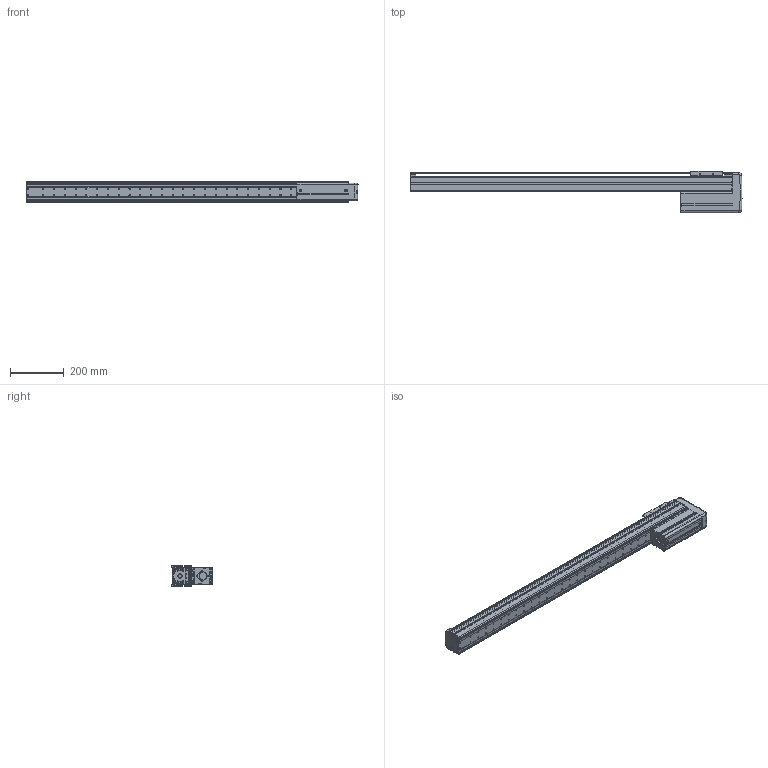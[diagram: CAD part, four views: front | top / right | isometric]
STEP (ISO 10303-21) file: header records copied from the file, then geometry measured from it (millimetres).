
FILE_DESCRIPTION((''),'2;1');
FILE_NAME('BE10E-UU-M_B-A0_IGS_PRT','2017-06-17T',(' '),(''),'PRO/ENGINEER BY PARAMETRIC TECHNOLOGY CORPORATION, 2015030','PRO/ENGINEER BY PARAMETRIC TECHNOLOGY CORPORATION, 2015030','');
FILE_SCHEMA(('CONFIG_CONTROL_DESIGN'));
Length unit declared in the file: millimetre
Products named in the file (1): BE10E-UU-M_B-A0_IGS_PRT
Bounding box: 1231.42 x 153 x 78 mm (x, y, z)
Volume: 1716817 mm3; surface area: 1163306.4 mm2
Topology: 2 solids, 135 shells, 1895 faces, 5138 edges, 3348 vertices
Faces by surface type: cylinder 937, plane 730, cone 81, torus 69, sphere 44, bspline 34
Entity records: 62215 total; most frequent: CARTESIAN_POINT 13233, DIRECTION 10616, ORIENTED_EDGE 9682, EDGE_CURVE 5098, AXIS2_PLACEMENT_3D 3990, VERTEX_POINT 3348, VECTOR 2636, LINE 2636
